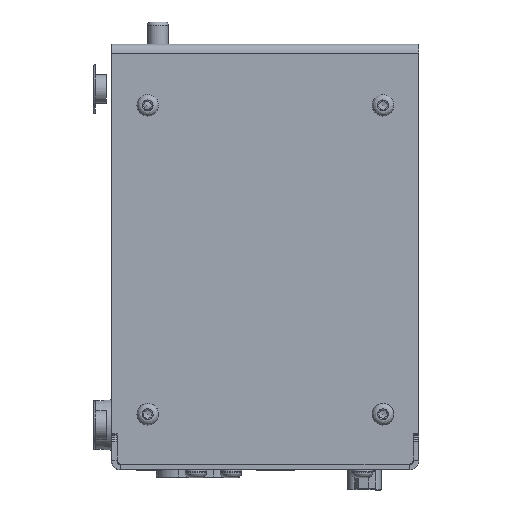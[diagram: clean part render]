
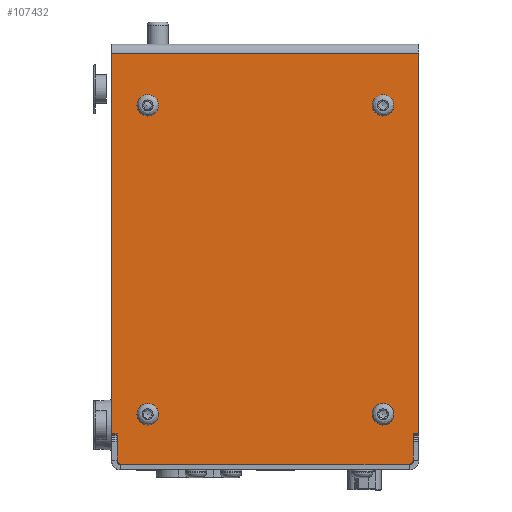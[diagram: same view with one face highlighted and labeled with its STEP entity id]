
A CAD part, front view. The second image highlights one B-rep face of the part: STEP entity #107432.
In plain terms, the highlighted planar face has unit normal (0.002, -1, 0).
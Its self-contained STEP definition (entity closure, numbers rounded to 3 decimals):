
#3492=FACE_BOUND('',#15840,.T.);
#3493=FACE_BOUND('',#15841,.T.);
#3494=FACE_BOUND('',#15842,.T.);
#3495=FACE_BOUND('',#15843,.T.);
#5251=PLANE('',#112859);
#9965=FACE_OUTER_BOUND('',#15839,.T.);
#15839=EDGE_LOOP('',(#81231,#81232,#81233,#81234,#81235,#81236,#81237,#81238,
#81239,#81240,#81241,#81242));
#15840=EDGE_LOOP('',(#81243));
#15841=EDGE_LOOP('',(#81244));
#15842=EDGE_LOOP('',(#81245));
#15843=EDGE_LOOP('',(#81246));
#23614=LINE('',#167008,#35008);
#23660=LINE('',#167123,#35054);
#23664=LINE('',#167131,#35058);
#23665=LINE('',#167134,#35059);
#23666=LINE('',#167136,#35060);
#23667=LINE('',#167138,#35061);
#23668=LINE('',#167140,#35062);
#23669=LINE('',#167142,#35063);
#23670=LINE('',#167143,#35064);
#23671=LINE('',#167144,#35065);
#35008=VECTOR('',#125638,10.);
#35054=VECTOR('',#125742,10.);
#35058=VECTOR('',#125748,10.);
#35059=VECTOR('',#125751,10.);
#35060=VECTOR('',#125752,10.);
#35061=VECTOR('',#125753,10.);
#35062=VECTOR('',#125754,10.);
#35063=VECTOR('',#125755,10.);
#35064=VECTOR('',#125756,10.);
#35065=VECTOR('',#125757,10.);
#42595=CIRCLE('',#112604,3.);
#42610=CIRCLE('',#112642,3.);
#42625=CIRCLE('',#112680,3.);
#42640=CIRCLE('',#112718,3.);
#42704=CIRCLE('',#112856,1.5);
#42706=CIRCLE('',#112860,1.5);
#47969=VERTEX_POINT('',#166229);
#48001=VERTEX_POINT('',#166389);
#48033=VERTEX_POINT('',#166549);
#48065=VERTEX_POINT('',#166709);
#48135=VERTEX_POINT('',#167000);
#48138=VERTEX_POINT('',#167006);
#48174=VERTEX_POINT('',#167113);
#48175=VERTEX_POINT('',#167115);
#48176=VERTEX_POINT('',#167119);
#48178=VERTEX_POINT('',#167122);
#48181=VERTEX_POINT('',#167130);
#48182=VERTEX_POINT('',#167132);
#48183=VERTEX_POINT('',#167135);
#48184=VERTEX_POINT('',#167137);
#48185=VERTEX_POINT('',#167139);
#48186=VERTEX_POINT('',#167141);
#59943=EDGE_CURVE('',#47969,#47969,#42595,.T.);
#59997=EDGE_CURVE('',#48001,#48001,#42610,.T.);
#60051=EDGE_CURVE('',#48033,#48033,#42625,.T.);
#60105=EDGE_CURVE('',#48065,#48065,#42640,.T.);
#60224=EDGE_CURVE('',#48135,#48138,#23614,.T.);
#60276=EDGE_CURVE('',#48174,#48175,#42704,.T.);
#60279=EDGE_CURVE('',#48178,#48176,#23660,.T.);
#60283=EDGE_CURVE('',#48174,#48181,#23664,.T.);
#60284=EDGE_CURVE('',#48182,#48181,#42706,.T.);
#60285=EDGE_CURVE('',#48182,#48135,#23665,.T.);
#60286=EDGE_CURVE('',#48138,#48183,#23666,.T.);
#60287=EDGE_CURVE('',#48184,#48183,#23667,.T.);
#60288=EDGE_CURVE('',#48184,#48185,#23668,.T.);
#60289=EDGE_CURVE('',#48186,#48185,#23669,.T.);
#60290=EDGE_CURVE('',#48186,#48178,#23670,.T.);
#60291=EDGE_CURVE('',#48175,#48176,#23671,.T.);
#81231=ORIENTED_EDGE('',*,*,#60276,.F.);
#81232=ORIENTED_EDGE('',*,*,#60283,.T.);
#81233=ORIENTED_EDGE('',*,*,#60284,.F.);
#81234=ORIENTED_EDGE('',*,*,#60285,.T.);
#81235=ORIENTED_EDGE('',*,*,#60224,.T.);
#81236=ORIENTED_EDGE('',*,*,#60286,.T.);
#81237=ORIENTED_EDGE('',*,*,#60287,.F.);
#81238=ORIENTED_EDGE('',*,*,#60288,.T.);
#81239=ORIENTED_EDGE('',*,*,#60289,.F.);
#81240=ORIENTED_EDGE('',*,*,#60290,.T.);
#81241=ORIENTED_EDGE('',*,*,#60279,.T.);
#81242=ORIENTED_EDGE('',*,*,#60291,.F.);
#81243=ORIENTED_EDGE('',*,*,#59943,.T.);
#81244=ORIENTED_EDGE('',*,*,#59997,.T.);
#81245=ORIENTED_EDGE('',*,*,#60051,.T.);
#81246=ORIENTED_EDGE('',*,*,#60105,.T.);
#107432=ADVANCED_FACE('',(#9965,#3492,#3493,#3494,#3495),#5251,.T.);
#112604=AXIS2_PLACEMENT_3D('',#166230,#125055,#125056);
#112642=AXIS2_PLACEMENT_3D('',#166390,#125158,#125159);
#112680=AXIS2_PLACEMENT_3D('',#166550,#125261,#125262);
#112718=AXIS2_PLACEMENT_3D('',#166710,#125364,#125365);
#112856=AXIS2_PLACEMENT_3D('',#167116,#125735,#125736);
#112859=AXIS2_PLACEMENT_3D('',#167129,#125746,#125747);
#112860=AXIS2_PLACEMENT_3D('',#167133,#125749,#125750);
#125055=DIRECTION('center_axis',(-0.002,1.,
0.));
#125056=DIRECTION('ref_axis',(-1.,-0.002,0.));
#125158=DIRECTION('center_axis',(-0.002,1.,
0.));
#125159=DIRECTION('ref_axis',(-1.,-0.002,0.));
#125261=DIRECTION('center_axis',(-0.002,1.,
0.));
#125262=DIRECTION('ref_axis',(-1.,-0.002,0.));
#125364=DIRECTION('center_axis',(-0.002,1.,
0.));
#125365=DIRECTION('ref_axis',(-1.,-0.002,0.));
#125638=DIRECTION('',(0.,0.,1.));
#125735=DIRECTION('center_axis',(-0.002,1.,
0.));
#125736=DIRECTION('ref_axis',(-0.707,-0.001,-0.707));
#125742=DIRECTION('',(0.,0.,-1.));
#125746=DIRECTION('center_axis',(0.002,-1.,
0.));
#125747=DIRECTION('ref_axis',(1.,0.002,0.));
#125748=DIRECTION('',(1.,0.002,0.));
#125749=DIRECTION('center_axis',(-0.002,1.,
0.));
#125750=DIRECTION('ref_axis',(0.707,0.001,-0.707));
#125751=DIRECTION('',(0.,0.,1.));
#125752=DIRECTION('',(1.,0.002,0.));
#125753=DIRECTION('',(0.,0.,-1.));
#125754=DIRECTION('',(-1.,-0.002,0.));
#125755=DIRECTION('',(0.,0.,1.));
#125756=DIRECTION('',(1.,0.002,0.));
#125757=DIRECTION('',(0.,0.,1.));
#166229=CARTESIAN_POINT('',(-190.104,92.471,32.991));
#166230=CARTESIAN_POINT('Origin',(-193.104,92.464,32.991));
#166389=CARTESIAN_POINT('',(-124.604,92.607,118.991));
#166390=CARTESIAN_POINT('Origin',(-127.604,92.6,118.991));
#166549=CARTESIAN_POINT('',(-190.104,92.471,118.991));
#166550=CARTESIAN_POINT('Origin',(-193.104,92.464,118.991));
#166709=CARTESIAN_POINT('',(-124.604,92.607,32.991));
#166710=CARTESIAN_POINT('Origin',(-127.604,92.6,32.991));
#167000=CARTESIAN_POINT('',(-119.104,92.618,25.491));
#167006=CARTESIAN_POINT('',(-119.104,92.618,27.491));
#167008=CARTESIAN_POINT('',(-119.104,92.618,52.516));
#167113=CARTESIAN_POINT('',(-200.104,92.45,18.991));
#167115=CARTESIAN_POINT('',(-201.604,92.447,20.491));
#167116=CARTESIAN_POINT('Origin',(-200.104,92.45,20.491));
#167119=CARTESIAN_POINT('',(-201.604,92.447,25.491));
#167122=CARTESIAN_POINT('',(-201.604,92.447,27.491));
#167123=CARTESIAN_POINT('',(-201.604,92.447,48.266));
#167129=CARTESIAN_POINT('Origin',(-160.354,92.532,77.541));
#167130=CARTESIAN_POINT('',(-120.604,92.615,18.991));
#167131=CARTESIAN_POINT('',(-117.604,92.621,18.991));
#167132=CARTESIAN_POINT('',(-119.104,92.618,20.491));
#167133=CARTESIAN_POINT('Origin',(-120.604,92.615,20.491));
#167134=CARTESIAN_POINT('',(-119.104,92.618,17.391));
#167135=CARTESIAN_POINT('',(-117.604,92.621,27.491));
#167136=CARTESIAN_POINT('',(-138.979,92.577,27.491));
#167137=CARTESIAN_POINT('',(-117.604,92.621,133.491));
#167138=CARTESIAN_POINT('',(-117.604,92.621,133.491));
#167139=CARTESIAN_POINT('',(-203.104,92.444,133.491));
#167140=CARTESIAN_POINT('',(-160.354,92.532,133.491));
#167141=CARTESIAN_POINT('',(-203.104,92.444,27.491));
#167142=CARTESIAN_POINT('',(-203.104,92.444,136.091));
#167143=CARTESIAN_POINT('',(-180.979,92.49,27.491));
#167144=CARTESIAN_POINT('',(-201.604,92.447,17.391));
